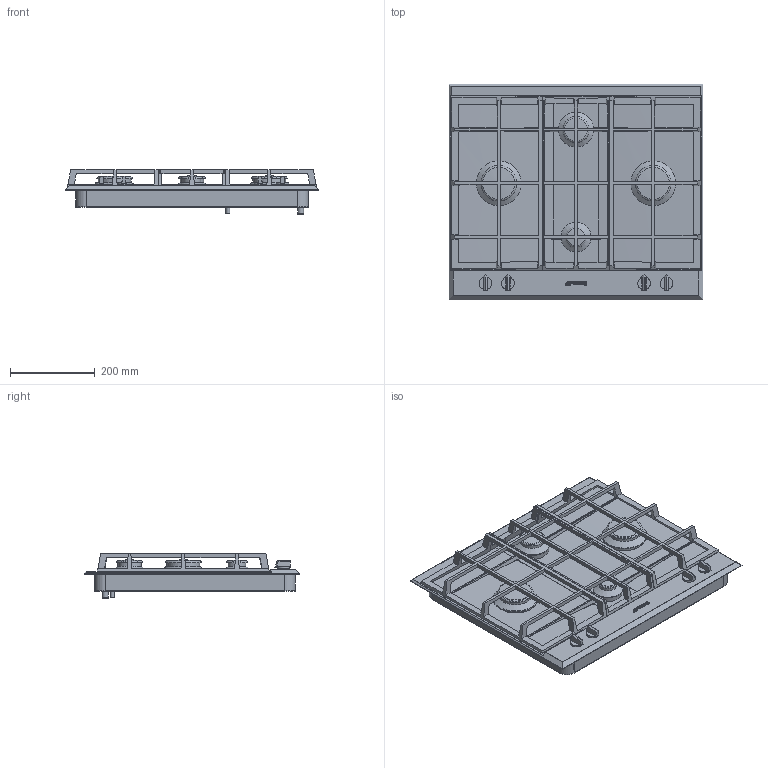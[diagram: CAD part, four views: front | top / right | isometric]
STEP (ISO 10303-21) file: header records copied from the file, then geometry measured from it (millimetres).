
FILE_DESCRIPTION(/* description */ (''),/* implementation_level */ '2;1');
FILE_NAME(/* name */ 'piano p260.stp',/* time_stamp */ '2018-11-15T16:13:16+01:00',/* author */ (''),/* organization */ (''),/* preprocessor_version */ 'ST-DEVELOPER v16',/* originating_system */ 'SIEMENS PLM Software NX 11.0',/* authorisation */ '');
FILE_SCHEMA (('AUTOMOTIVE_DESIGN { 1 0 10303 214 3 1 1 1 }'));
Length unit declared in the file: millimetre
Products named in the file (1): gobb2A6CF149851w
Bounding box: 600 x 510 x 105.42 mm (x, y, z)
Volume: 1630637 mm3; surface area: 1802319.1 mm2
Topology: 27 solids, 27 shells, 545 faces, 1452 edges, 954 vertices
Faces by surface type: plane 367, cylinder 123, torus 18, bspline 12, extrusion 11, sphere 8, cone 6
Full cylindrical faces by diameter (mm): 4.608 x6, 7 x8, 8 x1, 10 x1, 12 x2, 14 x2, 16 x4, 23 x4, 24.6 x4, 30 x4, 42 x1, 43 x1, 55 x1, 56 x1, 64.4 x1, 66 x1, 70.5 x1, 77.5 x2, 78.4 x1, 78.5 x2, 80 x1, 83 x1, 98.4 x2, 100 x2, 106 x2
Entity records: 17606 total; most frequent: CARTESIAN_POINT 4288, ORIENTED_EDGE 2674, DIRECTION 2587, EDGE_CURVE 1337, VERTEX_POINT 918, VECTOR 897, LINE 886, AXIS2_PLACEMENT_3D 845
